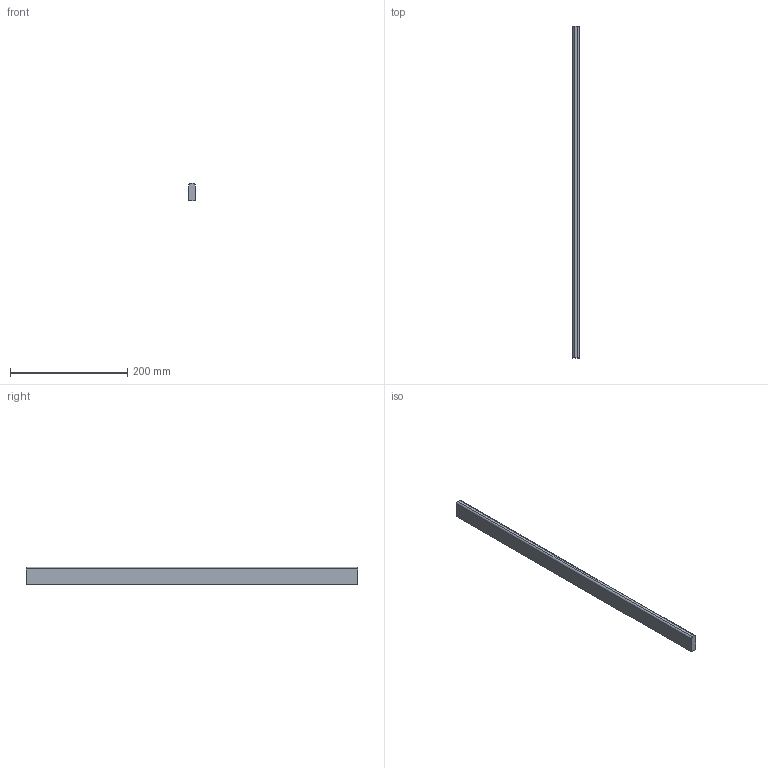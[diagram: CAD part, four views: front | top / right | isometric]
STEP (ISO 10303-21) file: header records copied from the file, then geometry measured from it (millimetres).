
FILE_DESCRIPTION (( 'STEP AP214' ), '1' );
FILE_NAME ('_Seitenreling_SP60701200_RL567,1.step', '2010-09-06T14:52:00', ( 'grass' ), ( '' ), 'SwSTEP 2.0', 'SolidWorks 2010', '' );
FILE_SCHEMA (( 'AUTOMOTIVE_DESIGN' ));
Length unit declared in the file: millimetre
Products named in the file (1): _Seitenreling_SP60701200_RL567,1
Bounding box: 10.5 x 567.1 x 30 mm (x, y, z)
Volume: 176445.9 mm3; surface area: 45097 mm2
Topology: 1 solids, 1 shells, 8 faces, 18 edges, 12 vertices
Faces by surface type: plane 6, cylinder 2
Entity records: 260 total; most frequent: DIRECTION 40, CARTESIAN_POINT 39, ORIENTED_EDGE 36, EDGE_CURVE 18, VECTOR 14, LINE 14, AXIS2_PLACEMENT_3D 13, VERTEX_POINT 12
